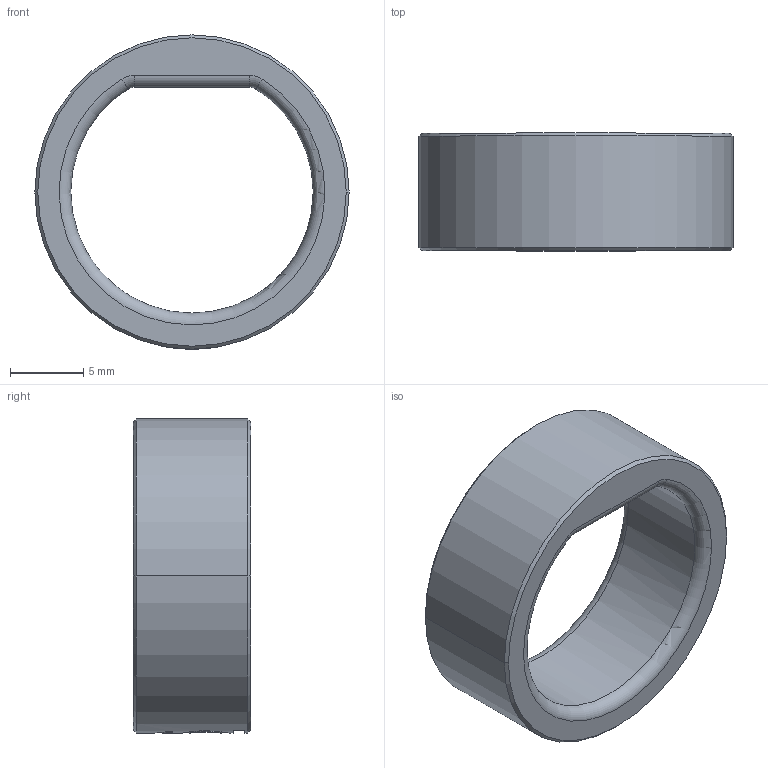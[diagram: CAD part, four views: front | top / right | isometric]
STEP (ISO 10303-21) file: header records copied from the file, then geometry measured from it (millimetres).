
FILE_DESCRIPTION((''),'2;1');
FILE_NAME('6_','2026-09-02T14:11:06',('krisl'),(''),'CREO PARAMETRIC BY PTC INC, 2024063','CREO PARAMETRIC BY PTC INC, 2024063','');
FILE_SCHEMA(('CONFIG_CONTROL_DESIGN'));
Length unit declared in the file: millimetre
Products named in the file (1): 6_
Bounding box: 21.4 x 8 x 21.4 mm (x, y, z)
Volume: 1197.5 mm3; surface area: 1211.9 mm2
Topology: 1 solids, 1 shells, 87 faces, 246 edges, 164 vertices
Faces by surface type: bspline 64, cylinder 10, torus 6, cone 4, plane 3
Entity records: 3696 total; most frequent: CARTESIAN_POINT 1845, ORIENTED_EDGE 492, EDGE_CURVE 246, DIRECTION 190, VERTEX_POINT 164, B_SPLINE_CURVE_WITH_KNOTS 160, EDGE_LOOP 92, FACE_OUTER_BOUND 87
